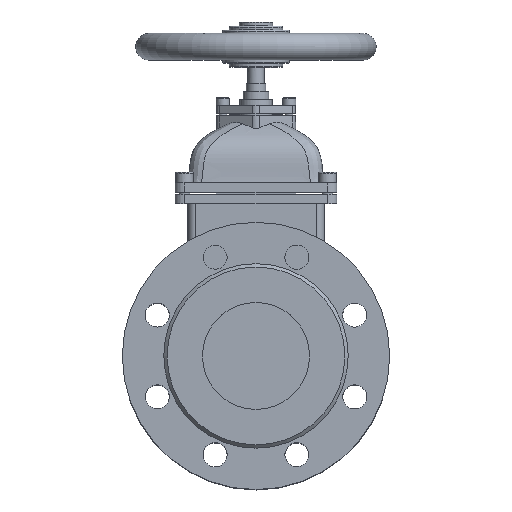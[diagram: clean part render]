
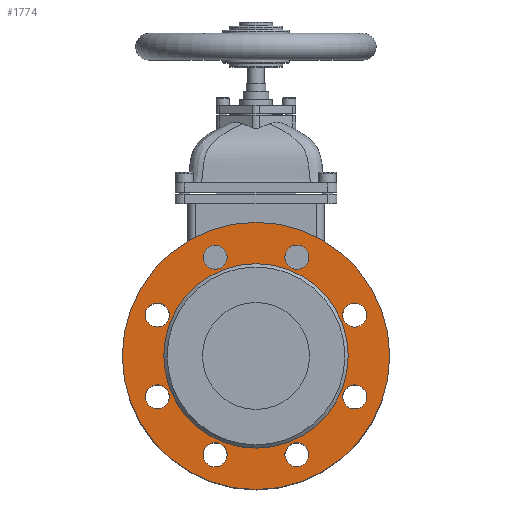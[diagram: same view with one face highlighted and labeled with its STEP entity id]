
A CAD part, top view. The second image highlights one B-rep face of the part: STEP entity #1774.
In plain terms, the highlighted planar face has unit normal (0, 0, 1).
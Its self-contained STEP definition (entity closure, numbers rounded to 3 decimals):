
#1774=ADVANCED_FACE('',(#3929,#3931,#3933,#3935,#3937,#3939,#3941,#3943,#3945,#3947),
#3949,.T.);
#3929=FACE_BOUND('',#3930,.T.);
#3930=EDGE_LOOP('',(#10973));
#3931=FACE_BOUND('',#3932,.T.);
#3932=EDGE_LOOP('',(#10974));
#3933=FACE_BOUND('',#3934,.T.);
#3934=EDGE_LOOP('',(#10975));
#3935=FACE_BOUND('',#3936,.T.);
#3936=EDGE_LOOP('',(#10976));
#3937=FACE_BOUND('',#3938,.T.);
#3938=EDGE_LOOP('',(#10977));
#3939=FACE_BOUND('',#3940,.T.);
#3940=EDGE_LOOP('',(#10978));
#3941=FACE_BOUND('',#3942,.T.);
#3942=EDGE_LOOP('',(#10979));
#3943=FACE_BOUND('',#3944,.T.);
#3944=EDGE_LOOP('',(#10980));
#3945=FACE_BOUND('',#3946,.T.);
#3946=EDGE_LOOP('',(#10981));
#3947=FACE_BOUND('',#3948,.T.);
#3948=EDGE_LOOP('',(#10982));
#3949=PLANE('',#3950);
#3950=AXIS2_PLACEMENT_3D('',#3951,#3952,#3953);
#3951=CARTESIAN_POINT('',(0.,0.,87.5));
#3952=DIRECTION('',(0.,0.,1.));
#3953=DIRECTION('',(0.,1.,0.));
#10973=ORIENTED_EDGE('',*,*,#12218,.F.);
#10974=ORIENTED_EDGE('',*,*,#12226,.T.);
#10975=ORIENTED_EDGE('',*,*,#12225,.T.);
#10976=ORIENTED_EDGE('',*,*,#12224,.T.);
#10977=ORIENTED_EDGE('',*,*,#12223,.T.);
#10978=ORIENTED_EDGE('',*,*,#12222,.T.);
#10979=ORIENTED_EDGE('',*,*,#12221,.T.);
#10980=ORIENTED_EDGE('',*,*,#12220,.T.);
#10981=ORIENTED_EDGE('',*,*,#12243,.T.);
#10982=ORIENTED_EDGE('',*,*,#12219,.T.);
#12218=EDGE_CURVE('',#13278,#13278,#13279,.T.);
#12219=EDGE_CURVE('',#13280,#13280,#13281,.F.);
#12220=EDGE_CURVE('',#13282,#13282,#13283,.F.);
#12221=EDGE_CURVE('',#13284,#13284,#13285,.F.);
#12222=EDGE_CURVE('',#13286,#13286,#13287,.F.);
#12223=EDGE_CURVE('',#13288,#13288,#13289,.F.);
#12224=EDGE_CURVE('',#13290,#13290,#13291,.F.);
#12225=EDGE_CURVE('',#13292,#13292,#13293,.F.);
#12226=EDGE_CURVE('',#13294,#13294,#13295,.F.);
#12243=EDGE_CURVE('',#13320,#13320,#13321,.T.);
#13278=VERTEX_POINT('',#15538);
#13279=CIRCLE('',#15539,100.);
#13280=VERTEX_POINT('',#15543);
#13281=CIRCLE('',#15544,9.);
#13282=VERTEX_POINT('',#15548);
#13283=CIRCLE('',#15549,9.);
#13284=VERTEX_POINT('',#15553);
#13285=CIRCLE('',#15554,9.);
#13286=VERTEX_POINT('',#15558);
#13287=CIRCLE('',#15559,9.);
#13288=VERTEX_POINT('',#15563);
#13289=CIRCLE('',#15564,9.);
#13290=VERTEX_POINT('',#15568);
#13291=CIRCLE('',#15569,9.);
#13292=VERTEX_POINT('',#15573);
#13293=CIRCLE('',#15574,9.);
#13294=VERTEX_POINT('',#15578);
#13295=CIRCLE('',#15579,9.);
#13320=VERTEX_POINT('',#15643);
#13321=CIRCLE('',#15644,69.);
#15538=CARTESIAN_POINT('',(0.,100.,87.5));
#15539=AXIS2_PLACEMENT_3D('',#15540,#15541,#15542);
#15540=CARTESIAN_POINT('',(0.,0.,87.5));
#15541=DIRECTION('',(0.,0.,-1.));
#15542=DIRECTION('',(0.,1.,0.));
#15543=CARTESIAN_POINT('',(39.615,73.91,87.5));
#15544=AXIS2_PLACEMENT_3D('',#15545,#15546,#15547);
#15545=CARTESIAN_POINT('',(30.615,73.91,87.5));
#15546=DIRECTION('',(0.,0.,1.));
#15547=DIRECTION('',(1.,0.,0.));
#15548=CARTESIAN_POINT('',(-24.251,80.274,87.5));
#15549=AXIS2_PLACEMENT_3D('',#15550,#15551,#15552);
#15550=CARTESIAN_POINT('',(-30.615,73.91,87.5));
#15551=DIRECTION('',(0.,0.,1.));
#15552=DIRECTION('',(0.707,0.707,0.));
#15553=CARTESIAN_POINT('',(-73.91,39.615,87.5));
#15554=AXIS2_PLACEMENT_3D('',#15555,#15556,#15557);
#15555=CARTESIAN_POINT('',(-73.91,30.615,87.5));
#15556=DIRECTION('',(0.,0.,1.));
#15557=DIRECTION('',(0.,1.,0.));
#15558=CARTESIAN_POINT('',(-80.274,-24.251,87.5));
#15559=AXIS2_PLACEMENT_3D('',#15560,#15561,#15562);
#15560=CARTESIAN_POINT('',(-73.91,-30.615,87.5));
#15561=DIRECTION('',(0.,0.,1.));
#15562=DIRECTION('',(-0.707,0.707,0.));
#15563=CARTESIAN_POINT('',(-39.615,-73.91,87.5));
#15564=AXIS2_PLACEMENT_3D('',#15565,#15566,#15567);
#15565=CARTESIAN_POINT('',(-30.615,-73.91,87.5));
#15566=DIRECTION('',(0.,0.,1.));
#15567=DIRECTION('',(-1.,0.,0.));
#15568=CARTESIAN_POINT('',(24.251,-80.274,87.5));
#15569=AXIS2_PLACEMENT_3D('',#15570,#15571,#15572);
#15570=CARTESIAN_POINT('',(30.615,-73.91,87.5));
#15571=DIRECTION('',(0.,0.,1.));
#15572=DIRECTION('',(-0.707,-0.707,0.));
#15573=CARTESIAN_POINT('',(73.91,-39.615,87.5));
#15574=AXIS2_PLACEMENT_3D('',#15575,#15576,#15577);
#15575=CARTESIAN_POINT('',(73.91,-30.615,87.5));
#15576=DIRECTION('',(0.,0.,1.));
#15577=DIRECTION('',(0.,-1.,0.));
#15578=CARTESIAN_POINT('',(80.274,24.251,87.5));
#15579=AXIS2_PLACEMENT_3D('',#15580,#15581,#15582);
#15580=CARTESIAN_POINT('',(73.91,30.615,87.5));
#15581=DIRECTION('',(0.,0.,1.));
#15582=DIRECTION('',(0.707,-0.707,0.));
#15643=CARTESIAN_POINT('',(0.,69.,87.5));
#15644=AXIS2_PLACEMENT_3D('',#15645,#15646,#15647);
#15645=CARTESIAN_POINT('',(0.,0.,87.5));
#15646=DIRECTION('',(0.,0.,-1.));
#15647=DIRECTION('',(0.,1.,0.));
